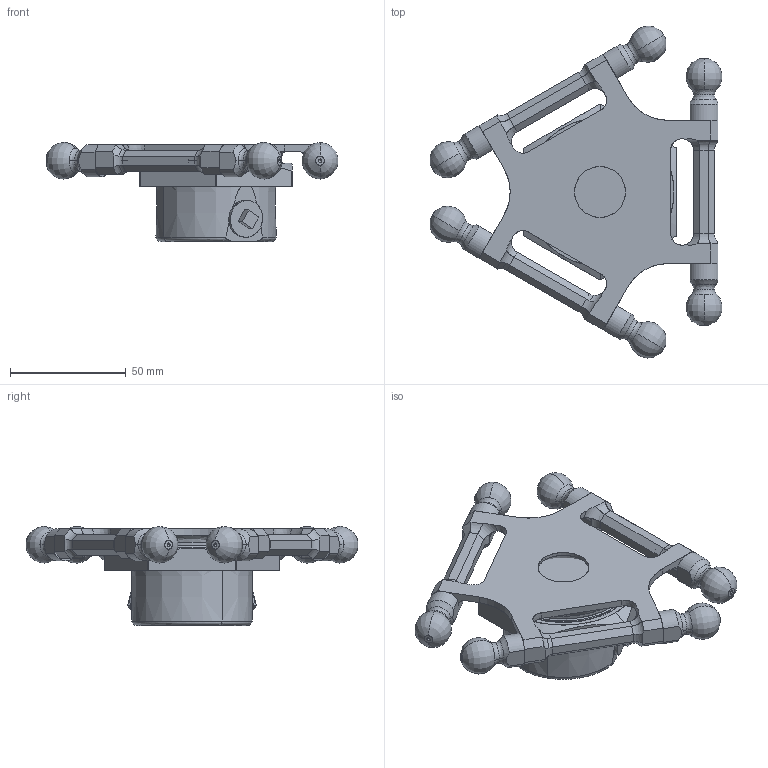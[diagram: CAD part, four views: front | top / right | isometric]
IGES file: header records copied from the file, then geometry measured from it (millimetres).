
Start section: SolidWorks IGES file using analytic representation for surfaces
Global section: file name: C:\Users\SELUHAA\Desktop\Work items\545792\IGES\IRB360_X-1130-WDS-4D_rev03_IGES_J\IRB360_X-1130-WDS-4D_rev03_PLATE_CAD.IGS; native system: SolidWorks 2022; preprocessor: SolidWorks 2022; author: SELUHAA; date: 231204.111752; units: millimetre
Bounding box: 126.24 x 143.64 x 42.94 mm (x, y, z)
Surface area: 64519.2 mm2 (no closed solid volume)
Topology: 0 solids, 0 shells, 480 faces, 6878 edges, 6860 vertices
Faces by surface type: revolution 263, bspline 217
